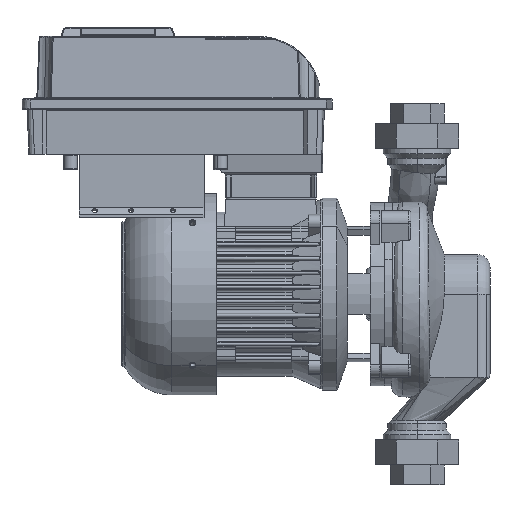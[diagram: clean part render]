
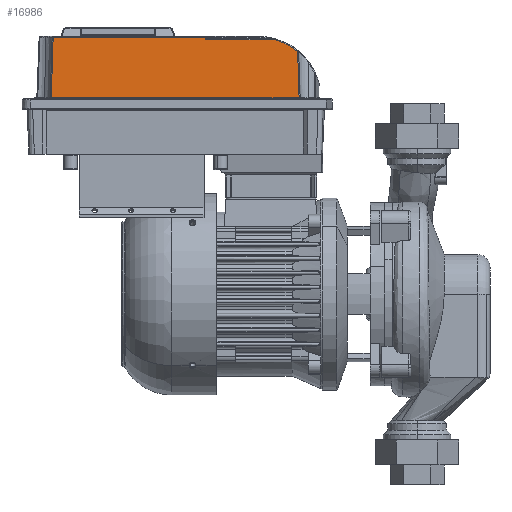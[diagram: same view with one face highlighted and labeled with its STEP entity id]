
A CAD part, left-side view. The second image highlights one B-rep face of the part: STEP entity #16986.
In plain terms, the highlighted planar face has unit normal (-0.999, 0, 0.035) as drawn and (0.999, 0, -0.035) by its records, which use the part's own axes.
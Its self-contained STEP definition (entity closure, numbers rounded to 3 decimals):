
#16986=ADVANCED_FACE('',(#34024),#34025,.F.);
#34024=FACE_OUTER_BOUND('',#66424,.T.);
#34025=PLANE('',#66425);
#66424=EDGE_LOOP('',(#100371,#100372,#100373,#100374,#100375,#100376,#100377));
#66425=AXIS2_PLACEMENT_3D('',#100378,#100379,#100380);
#100371=ORIENTED_EDGE('',*,*,#127797,.T.);
#100372=ORIENTED_EDGE('',*,*,#127785,.F.);
#100373=ORIENTED_EDGE('',*,*,#127004,.F.);
#100374=ORIENTED_EDGE('',*,*,#127798,.F.);
#100375=ORIENTED_EDGE('',*,*,#126931,.F.);
#100376=ORIENTED_EDGE('',*,*,#127799,.F.);
#100377=ORIENTED_EDGE('',*,*,#127800,.F.);
#100378=CARTESIAN_POINT('',(-14.0,85.982,60.0));
#100379=DIRECTION('',(-0.999,0.,0.035));
#100380=DIRECTION('',(0.035,-0.0,0.999));
#126931=EDGE_CURVE('',#144294,#144296,#144297,.T.);
#127004=EDGE_CURVE('',#144422,#144424,#144425,.T.);
#127785=EDGE_CURVE('',#144424,#145542,#145543,.T.);
#127797=EDGE_CURVE('',#145557,#145542,#145558,.T.);
#127798=EDGE_CURVE('',#144296,#144422,#145559,.T.);
#127799=EDGE_CURVE('',#145560,#144294,#145561,.T.);
#127800=EDGE_CURVE('',#145557,#145560,#145562,.T.);
#144294=VERTEX_POINT('',#171903);
#144296=VERTEX_POINT('',#171923);
#144297=LINE('',#171924,#171925);
#144422=VERTEX_POINT('',#172471);
#144424=VERTEX_POINT('',#172484);
#144425=LINE('',#172485,#172486);
#145542=VERTEX_POINT('',#175298);
#145543=LINE('',#175299,#175300);
#145557=VERTEX_POINT('',#175337);
#145558=LINE('',#175338,#175339);
#145559=B_SPLINE_CURVE_WITH_KNOTS('',3,(#175340,#175341,#175342,#175343,#175344,#175345,#175346,#175347,#175348,#175349,#175350,#175351,#175352,#175353,#175354,#175355,#175356,#175357),.UNSPECIFIED.,.F.,.F.,(4,2,2,2,2,2,2,2,4),(-60.135,-51.622,-41.425,-35.052,-31.069,-27.085,-20.712,-10.516,-2.002),.UNSPECIFIED.);
#145560=VERTEX_POINT('',#175358);
#145561=B_SPLINE_CURVE_WITH_KNOTS('',3,(#175359,#175360,#175361,#175362,#175363,#175364,#175365,#175366,#175367,#175368,#175369,#175370,#175371,#175372,#175373,#175374,#175375,#175376),.UNSPECIFIED.,.F.,.F.,(4,2,2,2,2,2,2,2,4),(2.165,8.251,16.253,21.254,24.379,27.505,32.505,40.507,46.752),.UNSPECIFIED.);
#145562=ELLIPSE('',#175377,59.036,59.0);
#171903=CARTESIAN_POINT('',(-14.034,39.053,59.035));
#171923=CARTESIAN_POINT('',(-14.034,277.053,59.035));
#171924=CARTESIAN_POINT('',(-14.034,243.721,59.035));
#171925=VECTOR('',#199149,1.0);
#172471=CARTESIAN_POINT('',(-16.062,275.263,0.965));
#172484=CARTESIAN_POINT('',(-16.062,129.042,0.965));
#172485=CARTESIAN_POINT('',(-16.062,42.991,0.965));
#172486=VECTOR('',#199226,1.0);
#175298=CARTESIAN_POINT('',(-15.992,129.042,2.965));
#175299=CARTESIAN_POINT('',(-15.027,129.042,30.598));
#175300=VECTOR('',#200019,1.);
#175337=CARTESIAN_POINT('',(-15.992,62.811,2.965));
#175338=CARTESIAN_POINT('',(-15.992,107.012,2.965));
#175339=VECTOR('',#200034,1.0);
#175340=CARTESIAN_POINT('',(-14.034,277.053,59.035));
#175341=CARTESIAN_POINT('',(-14.133,276.961,56.2));
#175342=CARTESIAN_POINT('',(-14.232,276.869,53.366));
#175343=CARTESIAN_POINT('',(-14.449,276.669,47.136));
#175344=CARTESIAN_POINT('',(-14.568,276.561,43.741));
#175345=CARTESIAN_POINT('',(-14.76,276.388,38.224));
#175346=CARTESIAN_POINT('',(-14.835,276.322,36.102));
#175347=CARTESIAN_POINT('',(-14.955,276.215,32.653));
#175348=CARTESIAN_POINT('',(-15.001,276.174,31.327));
#175349=CARTESIAN_POINT('',(-15.094,276.092,28.675));
#175350=CARTESIAN_POINT('',(-15.14,276.051,27.348));
#175351=CARTESIAN_POINT('',(-15.261,275.946,23.9));
#175352=CARTESIAN_POINT('',(-15.335,275.882,21.778));
#175353=CARTESIAN_POINT('',(-15.527,275.715,16.26));
#175354=CARTESIAN_POINT('',(-15.646,275.614,12.865));
#175355=CARTESIAN_POINT('',(-15.864,275.429,6.635));
#175356=CARTESIAN_POINT('',(-15.963,275.346,3.8));
#175357=CARTESIAN_POINT('',(-16.062,275.263,0.965));
#175358=CARTESIAN_POINT('',(-15.589,40.444,14.496));
#175359=CARTESIAN_POINT('',(-15.589,40.444,14.496));
#175360=CARTESIAN_POINT('',(-15.518,40.384,16.523));
#175361=CARTESIAN_POINT('',(-15.447,40.323,18.55));
#175362=CARTESIAN_POINT('',(-15.284,40.181,23.241));
#175363=CARTESIAN_POINT('',(-15.191,40.1,25.905));
#175364=CARTESIAN_POINT('',(-15.039,39.967,30.235));
#175365=CARTESIAN_POINT('',(-14.981,39.915,31.9));
#175366=CARTESIAN_POINT('',(-14.887,39.832,34.606));
#175367=CARTESIAN_POINT('',(-14.85,39.799,35.646));
#175368=CARTESIAN_POINT('',(-14.778,39.734,37.728));
#175369=CARTESIAN_POINT('',(-14.741,39.702,38.768));
#175370=CARTESIAN_POINT('',(-14.647,39.617,41.474));
#175371=CARTESIAN_POINT('',(-14.589,39.564,43.139));
#175372=CARTESIAN_POINT('',(-14.438,39.427,47.469));
#175373=CARTESIAN_POINT('',(-14.345,39.342,50.133));
#175374=CARTESIAN_POINT('',(-14.179,39.189,54.876));
#175375=CARTESIAN_POINT('',(-14.106,39.121,56.956));
#175376=CARTESIAN_POINT('',(-14.034,39.053,59.035));
#175377=AXIS2_PLACEMENT_3D('',#200035,#200036,#200037);
#199149=DIRECTION('',(0.,1.0,0.0));
#199226=DIRECTION('',(0.,-1.0,0.0));
#200019=DIRECTION('',(0.035,-0.0,0.999));
#200034=DIRECTION('',(0.,1.0,0.0));
#200035=CARTESIAN_POINT('',(-14.001,78.042,59.965));
#200036=DIRECTION('',(-0.999,0.,0.035));
#200037=DIRECTION('',(-0.035,0.,-0.999));
